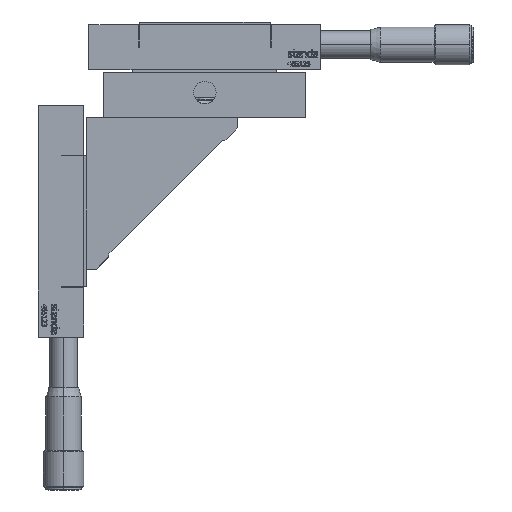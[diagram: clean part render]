
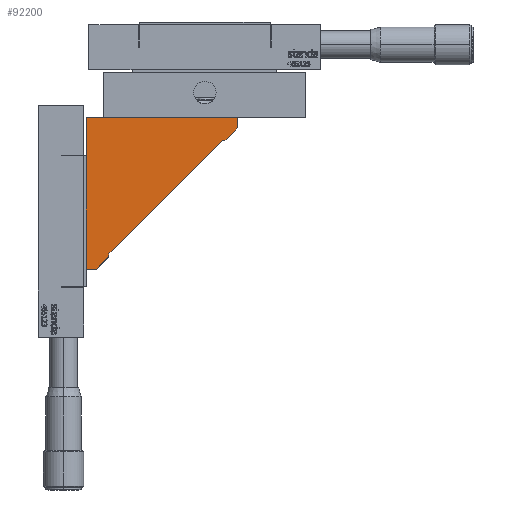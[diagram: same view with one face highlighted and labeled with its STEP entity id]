
A CAD part, front view. The second image highlights one B-rep face of the part: STEP entity #92200.
In plain terms, the highlighted planar face has unit normal (0, -1, 0).
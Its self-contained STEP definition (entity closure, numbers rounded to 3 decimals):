
#7044 = CARTESIAN_POINT ( 'NONE',  ( 53., 0., -28. ) ) ;
#7082 = DIRECTION ( 'NONE',  ( -1., 0., 0. ) ) ;
#7083 = VECTOR ( 'NONE', #7082, 1000. ) ;
#7085 = CARTESIAN_POINT ( 'NONE',  ( -1., 0., -28. ) ) ;
#7086 = LINE ( 'NONE', #7085, #7083 ) ;
#7088 = CARTESIAN_POINT ( 'NONE',  ( 54., 0., -28. ) ) ;
#7637 = CARTESIAN_POINT ( 'NONE',  ( 8., 0., -74. ) ) ;
#7638 = DIRECTION ( 'NONE',  ( 0., 0., -1. ) ) ;
#7639 = VECTOR ( 'NONE', #7638, 1000. ) ;
#7640 = CARTESIAN_POINT ( 'NONE',  ( 8., 0., -53.5 ) ) ;
#7641 = LINE ( 'NONE', #7640, #7639 ) ;
#7642 = CARTESIAN_POINT ( 'NONE',  ( 8., 0., -73. ) ) ;
#7699 = DIRECTION ( 'NONE',  ( 0.707, 0., 0.707 ) ) ;
#7701 = VECTOR ( 'NONE', #7699, 1000. ) ;
#7702 = CARTESIAN_POINT ( 'NONE',  ( 8., 0., -73. ) ) ;
#7703 = LINE ( 'NONE', #7702, #7701 ) ;
#7728 = CARTESIAN_POINT ( 'NONE',  ( 59., 0., -19. ) ) ;
#7855 = CARTESIAN_POINT ( 'NONE',  ( 6., 0., -19. ) ) ;
#7866 = VECTOR ( 'NONE', #8051, 1000. ) ;
#7868 = CARTESIAN_POINT ( 'NONE',  ( 54., 0., -28. ) ) ;
#7870 = LINE ( 'NONE', #7868, #7866 ) ;
#7878 = CARTESIAN_POINT ( 'NONE',  ( 59., 0., -23. ) ) ;
#7941 = DIRECTION ( 'NONE',  ( 0., 0., 1. ) ) ;
#7942 = VECTOR ( 'NONE', #7941, 1000. ) ;
#7944 = CARTESIAN_POINT ( 'NONE',  ( 59., 0., -43.91 ) ) ;
#7946 = LINE ( 'NONE', #7944, #7942 ) ;
#7985 = DIRECTION ( 'NONE',  ( 0.707, 0., 0.707 ) ) ;
#7986 = VECTOR ( 'NONE', #7985, 1000. ) ;
#7988 = CARTESIAN_POINT ( 'NONE',  ( 3., 0., -79. ) ) ;
#7989 = LINE ( 'NONE', #7988, #7986 ) ;
#8026 = DIRECTION ( 'NONE',  ( -1., 0., 0. ) ) ;
#8027 = VECTOR ( 'NONE', #8026, 1000. ) ;
#8029 = CARTESIAN_POINT ( 'NONE',  ( 23.91, 0., -19. ) ) ;
#8030 = LINE ( 'NONE', #8029, #8027 ) ;
#8051 = DIRECTION ( 'NONE',  ( 0.707, 0., 0.707 ) ) ;
#8226 = CARTESIAN_POINT ( 'NONE',  ( 3., 0., -79. ) ) ;
#8328 = DIRECTION ( 'NONE',  ( 1., 0., 0. ) ) ;
#8329 = DIRECTION ( 'NONE',  ( 0., -1., 0. ) ) ;
#8332 = CARTESIAN_POINT ( 'NONE',  ( 23.91, 0., -43.91 ) ) ;
#8333 = AXIS2_PLACEMENT_3D ( 'NONE', #8332, #8329, #8328 ) ;
#8338 = PLANE ( 'NONE',  #8333 ) ;
#8341 = FACE_OUTER_BOUND ( 'NONE', #92202, .T. ) ;
#8343 = DIRECTION ( 'NONE',  ( -1., 0., 0. ) ) ;
#8344 = VECTOR ( 'NONE', #8343, 1000. ) ;
#8347 = CARTESIAN_POINT ( 'NONE',  ( 23.91, 0., -19. ) ) ;
#8348 = LINE ( 'NONE', #8347, #8344 ) ;
#8470 = CARTESIAN_POINT ( 'NONE',  ( -1., 0., -19. ) ) ;
#8610 = DIRECTION ( 'NONE',  ( -1., 0., 0. ) ) ;
#8612 = VECTOR ( 'NONE', #8610, 1000. ) ;
#8613 = CARTESIAN_POINT ( 'NONE',  ( -1., 0., -79. ) ) ;
#8615 = LINE ( 'NONE', #8613, #8612 ) ;
#8623 = CARTESIAN_POINT ( 'NONE',  ( -1., 0., -79. ) ) ;
#8625 = DIRECTION ( 'NONE',  ( 0., 0., -1. ) ) ;
#8628 = VECTOR ( 'NONE', #8625, 1000. ) ;
#8631 = CARTESIAN_POINT ( 'NONE',  ( -1., 0., -23.5 ) ) ;
#8633 = LINE ( 'NONE', #8631, #8628 ) ;
#91062 = VERTEX_POINT ( 'NONE', #7088 ) ;
#91065 = EDGE_CURVE ( 'NONE', #91062, #91078, #7086, .T. ) ;
#91078 = VERTEX_POINT ( 'NONE', #7044 ) ;
#91847 = VERTEX_POINT ( 'NONE', #7642 ) ;
#91850 = EDGE_CURVE ( 'NONE', #91847, #91851, #7641, .T. ) ;
#91851 = VERTEX_POINT ( 'NONE', #7637 ) ;
#91866 = VERTEX_POINT ( 'NONE', #7728 ) ;
#91873 = EDGE_CURVE ( 'NONE', #91847, #91078, #7703, .T. ) ;
#91898 = VERTEX_POINT ( 'NONE', #7855 ) ;
#91968 = EDGE_CURVE ( 'NONE', #91990, #91866, #7946, .T. ) ;
#91990 = VERTEX_POINT ( 'NONE', #7878 ) ;
#91993 = EDGE_CURVE ( 'NONE', #91062, #91990, #7870, .T. ) ;
#92004 = EDGE_CURVE ( 'NONE', #91866, #91898, #8030, .T. ) ;
#92067 = EDGE_CURVE ( 'NONE', #92110, #91851, #7989, .T. ) ;
#92110 = VERTEX_POINT ( 'NONE', #8226 ) ;
#92194 = EDGE_CURVE ( 'NONE', #91898, #92227, #8348, .T. ) ;
#92200 = ADVANCED_FACE ( 'NONE', ( #8341 ), #8338, .T. ) ;
#92202 = EDGE_LOOP ( 'NONE', ( #92204, #92205, #92206, #92207, #92302, #92304, #92305, #92306, #92308, #92312 ) ) ;
#92204 = ORIENTED_EDGE ( 'NONE', *, *, #92067, .T. ) ;
#92205 = ORIENTED_EDGE ( 'NONE', *, *, #91850, .F. ) ;
#92206 = ORIENTED_EDGE ( 'NONE', *, *, #91873, .T. ) ;
#92207 = ORIENTED_EDGE ( 'NONE', *, *, #91065, .F. ) ;
#92227 = VERTEX_POINT ( 'NONE', #8470 ) ;
#92302 = ORIENTED_EDGE ( 'NONE', *, *, #91993, .T. ) ;
#92304 = ORIENTED_EDGE ( 'NONE', *, *, #91968, .T. ) ;
#92305 = ORIENTED_EDGE ( 'NONE', *, *, #92004, .T. ) ;
#92306 = ORIENTED_EDGE ( 'NONE', *, *, #92194, .T. ) ;
#92308 = ORIENTED_EDGE ( 'NONE', *, *, #92309, .T. ) ;
#92309 = EDGE_CURVE ( 'NONE', #92227, #92310, #8633, .T. ) ;
#92310 = VERTEX_POINT ( 'NONE', #8623 ) ;
#92312 = ORIENTED_EDGE ( 'NONE', *, *, #92314, .F. ) ;
#92314 = EDGE_CURVE ( 'NONE', #92110, #92310, #8615, .T. ) ;
